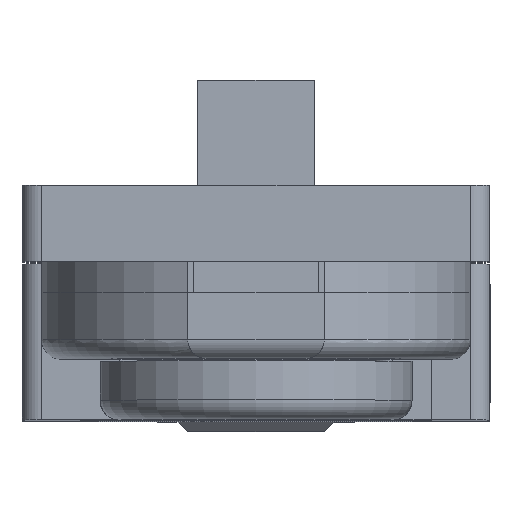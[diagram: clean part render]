
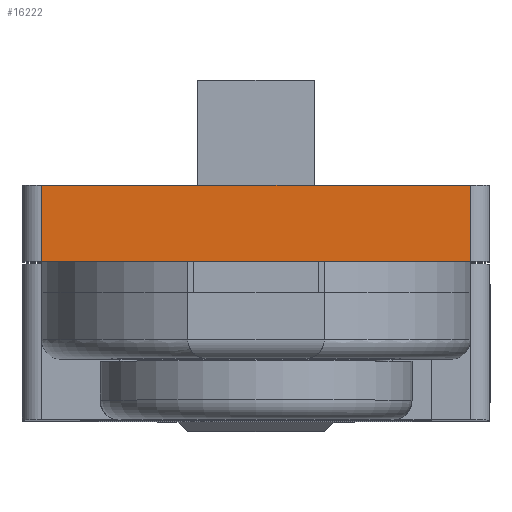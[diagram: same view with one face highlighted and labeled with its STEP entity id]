
A CAD part, top view. The second image highlights one B-rep face of the part: STEP entity #16222.
In plain terms, the highlighted planar face has unit normal (0, 0, 1).
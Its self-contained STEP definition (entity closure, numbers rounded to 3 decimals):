
#3043=FACE_OUTER_BOUND('',#4027,.T.);
#4027=EDGE_LOOP('',(#14669,#14670,#14671,#14672));
#5032=LINE('',#50891,#6104);
#5096=LINE('',#53455,#6168);
#5100=LINE('',#53466,#6172);
#5101=LINE('',#53468,#6173);
#6104=VECTOR('',#20596,10.);
#6168=VECTOR('',#20820,10.);
#6172=VECTOR('',#20834,10.);
#6173=VECTOR('',#20837,10.);
#7654=VERTEX_POINT('',#50888);
#7655=VERTEX_POINT('',#50890);
#7730=VERTEX_POINT('',#53452);
#7731=VERTEX_POINT('',#53454);
#9953=EDGE_CURVE('',#7654,#7655,#5032,.T.);
#10074=EDGE_CURVE('',#7730,#7731,#5096,.F.);
#10080=EDGE_CURVE('',#7731,#7654,#5100,.T.);
#10081=EDGE_CURVE('',#7655,#7730,#5101,.T.);
#14669=ORIENTED_EDGE('',*,*,#10080,.F.);
#14670=ORIENTED_EDGE('',*,*,#10074,.F.);
#14671=ORIENTED_EDGE('',*,*,#10081,.F.);
#14672=ORIENTED_EDGE('',*,*,#9953,.F.);
#15415=PLANE('',#17553);
#16222=ADVANCED_FACE('',(#3043),#15415,.T.);
#17553=AXIS2_PLACEMENT_3D('',#53467,#20835,#20836);
#20596=DIRECTION('',(1.,0.,0.));
#20820=DIRECTION('',(1.,0.,0.));
#20834=DIRECTION('',(0.,1.,0.));
#20835=DIRECTION('center_axis',(0.,0.,1.));
#20836=DIRECTION('ref_axis',(1.,0.,0.));
#20837=DIRECTION('',(0.,-1.,0.));
#50888=CARTESIAN_POINT('',(-22.,16.,157.6));
#50890=CARTESIAN_POINT('',(21.991,16.,157.6));
#50891=CARTESIAN_POINT('',(23.991,16.,157.6));
#53452=CARTESIAN_POINT('',(21.991,8.2,157.6));
#53454=CARTESIAN_POINT('',(-22.,8.2,157.6));
#53455=CARTESIAN_POINT('',(-12.002,8.2,157.6));
#53466=CARTESIAN_POINT('',(-22.,8.,157.6));
#53467=CARTESIAN_POINT('Origin',(-24.,8.,157.6));
#53468=CARTESIAN_POINT('',(21.991,8.,157.6));
